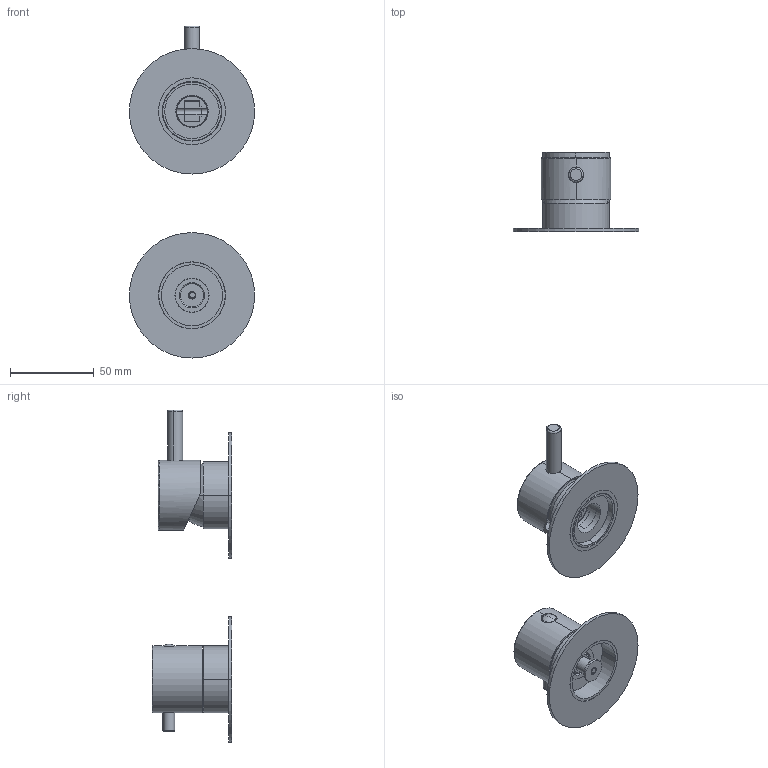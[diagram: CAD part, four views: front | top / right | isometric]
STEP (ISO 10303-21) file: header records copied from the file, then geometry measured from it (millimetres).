
FILE_DESCRIPTION((''),'2;1');
FILE_NAME('12553V3_SW0001','2024-10-10T09:23:38',('volponeff'),(''),'CREO PARAMETRIC BY PTC INC, 2022014','CREO PARAMETRIC BY PTC INC, 2022014','');
FILE_SCHEMA(('CONFIG_CONTROL_DESIGN'));
Length unit declared in the file: millimetre
Products named in the file (1): 12553V3_SW0001
Bounding box: 75 x 47.7 x 198.5 mm (x, y, z)
Volume: 70979.3 mm3; surface area: 65140 mm2
Topology: 7 solids, 7 shells, 756 faces, 2090 edges, 1360 vertices
Faces by surface type: cylinder 313, plane 238, cone 76, torus 66, bspline 61, sphere 2
Entity records: 54121 total; most frequent: CARTESIAN_POINT 35402, ORIENTED_EDGE 4164, DIRECTION 3592, EDGE_CURVE 2082, VERTEX_POINT 1360, AXIS2_PLACEMENT_3D 1341, VECTOR 910, LINE 910
